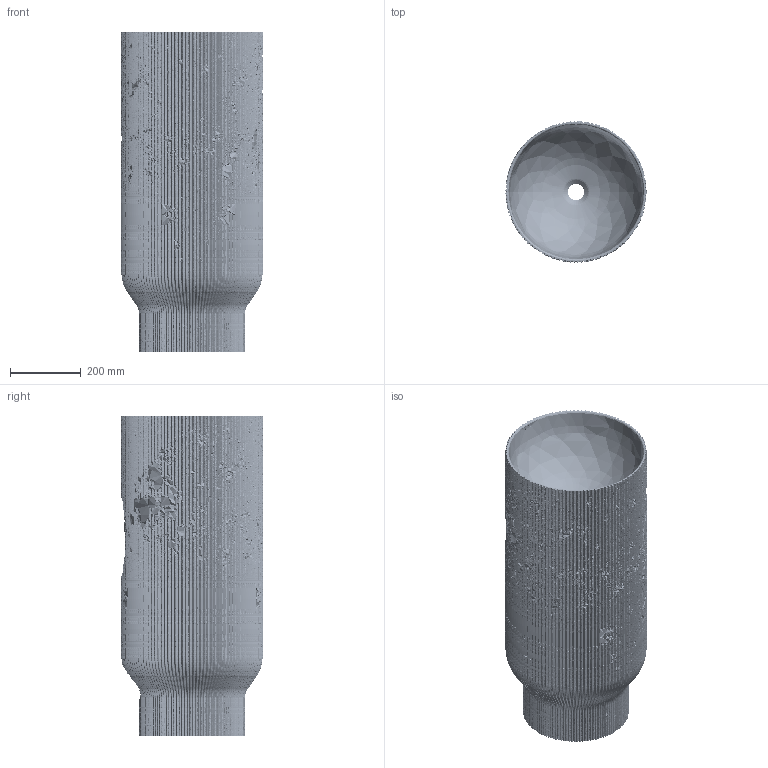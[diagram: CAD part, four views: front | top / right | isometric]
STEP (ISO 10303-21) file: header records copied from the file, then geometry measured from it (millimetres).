
FILE_DESCRIPTION(/* description */ (''),/* implementation_level */ '2;1');
FILE_NAME(/* name */ '8273_KALASIN',/* time_stamp */ '2025-03-31T10:19:42+02:00',/* author */ (''),/* organization */ (''),/* preprocessor_version */ 'ST-DEVELOPER v19.2',/* originating_system */ 'Rhino 8.17',/* authorisation */ '');
FILE_SCHEMA (('CONFIG_CONTROL_DESIGN'));
Length unit declared in the file: millimetre
Products named in the file (1): Document
Bounding box: 398.19 x 398.19 x 900 mm (x, y, z)
Volume: 19667597.3 mm3; surface area: 2640222.5 mm2
Topology: 7 solids, 7 shells, 210 faces, 530 edges, 341 vertices
Faces by surface type: bspline 109, plane 86, cylinder 15
Entity records: 131663 total; most frequent: CARTESIAN_POINT 127671, ORIENTED_EDGE 1060, EDGE_CURVE 530, B_SPLINE_CURVE_WITH_KNOTS 364, VERTEX_POINT 341, DIRECTION 327, EDGE_LOOP 235, AXIS2_PLACEMENT_3D 214
